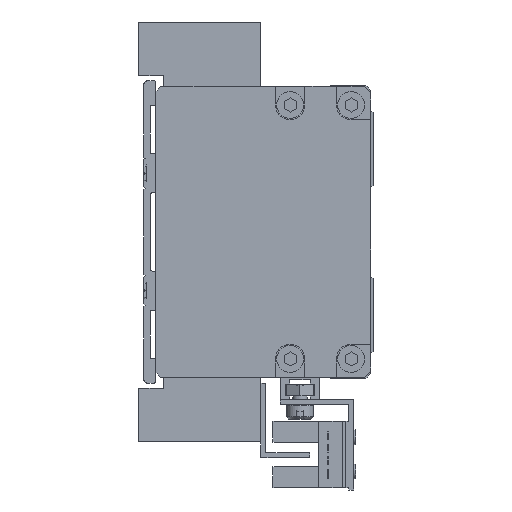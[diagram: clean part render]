
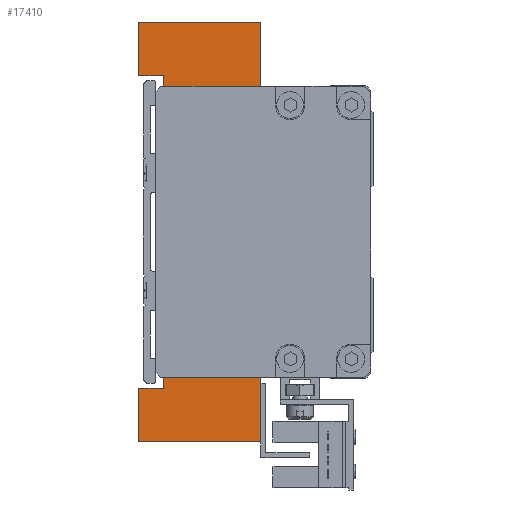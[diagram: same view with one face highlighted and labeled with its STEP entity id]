
A CAD part, left-side view. The second image highlights one B-rep face of the part: STEP entity #17410.
In plain terms, the highlighted planar face has unit normal (-1, 0, 0).
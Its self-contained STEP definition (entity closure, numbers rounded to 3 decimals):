
#139 = ORIENTED_EDGE ( 'NONE', *, *, #30024, .T. ) ;
#1219 = ORIENTED_EDGE ( 'NONE', *, *, #13622, .F. ) ;
#1305 = DIRECTION ( 'NONE',  ( 0., 0., -1. ) ) ;
#1363 = EDGE_CURVE ( 'NONE', #2935, #18385, #38283, .T. ) ;
#1371 = VECTOR ( 'NONE', #9172, 1000. ) ;
#1656 = AXIS2_PLACEMENT_3D ( 'NONE', #16267, #37832, #22563 ) ;
#2106 = ORIENTED_EDGE ( 'NONE', *, *, #21478, .F. ) ;
#2311 = DIRECTION ( 'NONE',  ( 0., 1., 0. ) ) ;
#2427 = ORIENTED_EDGE ( 'NONE', *, *, #12538, .F. ) ;
#2829 = LINE ( 'NONE', #6293, #1371 ) ;
#2845 = VECTOR ( 'NONE', #6173, 1000. ) ;
#2935 = VERTEX_POINT ( 'NONE', #13249 ) ;
#3105 = EDGE_CURVE ( 'NONE', #39103, #24300, #2829, .T. ) ;
#3289 = CARTESIAN_POINT ( 'NONE',  ( -77., 20., 32. ) ) ;
#3555 = CARTESIAN_POINT ( 'NONE',  ( -77., 25., 43. ) ) ;
#3556 = LINE ( 'NONE', #37116, #20034 ) ;
#3831 = CARTESIAN_POINT ( 'NONE',  ( -77., 9., -21. ) ) ;
#4033 = CARTESIAN_POINT ( 'NONE',  ( -77., 10., 21. ) ) ;
#4581 = ORIENTED_EDGE ( 'NONE', *, *, #3105, .T. ) ;
#5161 = ORIENTED_EDGE ( 'NONE', *, *, #1363, .F. ) ;
#5210 = CARTESIAN_POINT ( 'NONE',  ( -77., 0., 43. ) ) ;
#5610 = LINE ( 'NONE', #28814, #23982 ) ;
#6173 = DIRECTION ( 'NONE',  ( 0., -1., 0. ) ) ;
#6293 = CARTESIAN_POINT ( 'NONE',  ( -77., 9., -21. ) ) ;
#6824 = CARTESIAN_POINT ( 'NONE',  ( -77., 5., -28. ) ) ;
#6901 = PLANE ( 'NONE',  #1656 ) ;
#7254 = LINE ( 'NONE', #30957, #28010 ) ;
#7720 = VERTEX_POINT ( 'NONE', #13611 ) ;
#8215 = LINE ( 'NONE', #31137, #2845 ) ;
#8240 = LINE ( 'NONE', #38215, #14538 ) ;
#8681 = EDGE_CURVE ( 'NONE', #20263, #9856, #18268, .T. ) ;
#8875 = EDGE_CURVE ( 'NONE', #22261, #22855, #10511, .T. ) ;
#9172 = DIRECTION ( 'NONE',  ( 0., 1., 0. ) ) ;
#9323 = LINE ( 'NONE', #4033, #30564 ) ;
#9546 = VECTOR ( 'NONE', #19537, 1000. ) ;
#9856 = VERTEX_POINT ( 'NONE', #29555 ) ;
#9993 = EDGE_LOOP ( 'NONE', ( #139, #17011, #28045, #21552, #28283, #33442, #24125, #31848, #35580, #2106, #2427, #22714, #22071, #12476, #5161, #36922, #4581, #1219 ) ) ;
#10511 = LINE ( 'NONE', #35360, #26939 ) ;
#10913 = CARTESIAN_POINT ( 'NONE',  ( -77., 25., -32. ) ) ;
#11287 = VECTOR ( 'NONE', #34366, 1000. ) ;
#11447 = LINE ( 'NONE', #3555, #18668 ) ;
#11855 = CARTESIAN_POINT ( 'NONE',  ( -77., 0., 28. ) ) ;
#12118 = CARTESIAN_POINT ( 'NONE',  ( -77., 5., -21. ) ) ;
#12476 = ORIENTED_EDGE ( 'NONE', *, *, #34601, .F. ) ;
#12538 = EDGE_CURVE ( 'NONE', #23834, #17009, #3556, .T. ) ;
#12637 = DIRECTION ( 'NONE',  ( 0., 0., 1. ) ) ;
#12759 = LINE ( 'NONE', #16190, #17583 ) ;
#12837 = EDGE_CURVE ( 'NONE', #13520, #22261, #26299, .T. ) ;
#13249 = CARTESIAN_POINT ( 'NONE',  ( -77., 5., -21. ) ) ;
#13314 = EDGE_CURVE ( 'NONE', #9856, #23834, #13723, .T. ) ;
#13520 = VERTEX_POINT ( 'NONE', #19470 ) ;
#13611 = CARTESIAN_POINT ( 'NONE',  ( -77., 25., 32. ) ) ;
#13622 = EDGE_CURVE ( 'NONE', #21078, #24300, #9323, .T. ) ;
#13723 = LINE ( 'NONE', #26945, #22378 ) ;
#14404 = VECTOR ( 'NONE', #18778, 1000. ) ;
#14538 = VECTOR ( 'NONE', #29009, 1000. ) ;
#15051 = VERTEX_POINT ( 'NONE', #27775 ) ;
#15148 = CARTESIAN_POINT ( 'NONE',  ( -77., 20., 32. ) ) ;
#15216 = DIRECTION ( 'NONE',  ( 0., 0., -1. ) ) ;
#15575 = CARTESIAN_POINT ( 'NONE',  ( -77., 5., 28. ) ) ;
#16118 = LINE ( 'NONE', #15575, #39342 ) ;
#16190 = CARTESIAN_POINT ( 'NONE',  ( -77., 5., -28. ) ) ;
#16267 = CARTESIAN_POINT ( 'NONE',  ( -77., 10., 0. ) ) ;
#16977 = CARTESIAN_POINT ( 'NONE',  ( -77., 5., 21. ) ) ;
#17009 = VERTEX_POINT ( 'NONE', #10913 ) ;
#17011 = ORIENTED_EDGE ( 'NONE', *, *, #25992, .T. ) ;
#17410 = ADVANCED_FACE ( 'NONE', ( #20129 ), #6901, .F. ) ;
#17583 = VECTOR ( 'NONE', #22090, 1000. ) ;
#17632 = VECTOR ( 'NONE', #23791, 1000. ) ;
#18268 = LINE ( 'NONE', #24702, #14404 ) ;
#18385 = VERTEX_POINT ( 'NONE', #6824 ) ;
#18668 = VECTOR ( 'NONE', #37496, 1000. ) ;
#18778 = DIRECTION ( 'NONE',  ( 0., 0., -1. ) ) ;
#19470 = CARTESIAN_POINT ( 'NONE',  ( -77., 0., 43. ) ) ;
#19537 = DIRECTION ( 'NONE',  ( 0., -1., 0. ) ) ;
#19994 = VECTOR ( 'NONE', #27235, 1000. ) ;
#20034 = VECTOR ( 'NONE', #34117, 1000. ) ;
#20129 = FACE_OUTER_BOUND ( 'NONE', #9993, .T. ) ;
#20263 = VERTEX_POINT ( 'NONE', #24917 ) ;
#21078 = VERTEX_POINT ( 'NONE', #30134 ) ;
#21478 = EDGE_CURVE ( 'NONE', #17009, #15051, #8240, .T. ) ;
#21552 = ORIENTED_EDGE ( 'NONE', *, *, #8875, .F. ) ;
#21842 = LINE ( 'NONE', #3289, #11287 ) ;
#22071 = ORIENTED_EDGE ( 'NONE', *, *, #8681, .F. ) ;
#22090 = DIRECTION ( 'NONE',  ( 0., -1., 0. ) ) ;
#22261 = VERTEX_POINT ( 'NONE', #11855 ) ;
#22378 = VECTOR ( 'NONE', #2311, 1000. ) ;
#22563 = DIRECTION ( 'NONE',  ( 0., 0., -1. ) ) ;
#22714 = ORIENTED_EDGE ( 'NONE', *, *, #13314, .F. ) ;
#22855 = VERTEX_POINT ( 'NONE', #26336 ) ;
#23791 = DIRECTION ( 'NONE',  ( 0., 0., 1. ) ) ;
#23834 = VERTEX_POINT ( 'NONE', #29189 ) ;
#23982 = VECTOR ( 'NONE', #32182, 1000. ) ;
#24125 = ORIENTED_EDGE ( 'NONE', *, *, #39859, .F. ) ;
#24300 = VERTEX_POINT ( 'NONE', #31051 ) ;
#24635 = VERTEX_POINT ( 'NONE', #33056 ) ;
#24702 = CARTESIAN_POINT ( 'NONE',  ( -77., 0., -28. ) ) ;
#24917 = CARTESIAN_POINT ( 'NONE',  ( -77., 0., -28. ) ) ;
#25774 = CARTESIAN_POINT ( 'NONE',  ( -77., 25., 43. ) ) ;
#25982 = LINE ( 'NONE', #34779, #9546 ) ;
#25992 = EDGE_CURVE ( 'NONE', #24635, #28740, #5610, .T. ) ;
#26249 = VECTOR ( 'NONE', #15216, 1000. ) ;
#26299 = LINE ( 'NONE', #5210, #19994 ) ;
#26336 = CARTESIAN_POINT ( 'NONE',  ( -77., 5., 28. ) ) ;
#26939 = VECTOR ( 'NONE', #38480, 1000. ) ;
#26945 = CARTESIAN_POINT ( 'NONE',  ( -77., 0., -43. ) ) ;
#27235 = DIRECTION ( 'NONE',  ( 0., 0., -1. ) ) ;
#27775 = CARTESIAN_POINT ( 'NONE',  ( -77., 20., -32. ) ) ;
#27982 = EDGE_CURVE ( 'NONE', #22855, #28740, #16118, .T. ) ;
#28010 = VECTOR ( 'NONE', #12637, 1000. ) ;
#28045 = ORIENTED_EDGE ( 'NONE', *, *, #27982, .F. ) ;
#28283 = ORIENTED_EDGE ( 'NONE', *, *, #12837, .F. ) ;
#28555 = EDGE_CURVE ( 'NONE', #38811, #7720, #21842, .T. ) ;
#28740 = VERTEX_POINT ( 'NONE', #16977 ) ;
#28814 = CARTESIAN_POINT ( 'NONE',  ( -77., 9., 21. ) ) ;
#29009 = DIRECTION ( 'NONE',  ( 0., -1., 0. ) ) ;
#29189 = CARTESIAN_POINT ( 'NONE',  ( -77., 25., -43. ) ) ;
#29555 = CARTESIAN_POINT ( 'NONE',  ( -77., 0., -43. ) ) ;
#30024 = EDGE_CURVE ( 'NONE', #21078, #24635, #8215, .T. ) ;
#30134 = CARTESIAN_POINT ( 'NONE',  ( -77., 10., 21. ) ) ;
#30404 = CARTESIAN_POINT ( 'NONE',  ( -77., 25., 32. ) ) ;
#30564 = VECTOR ( 'NONE', #1305, 1000. ) ;
#30957 = CARTESIAN_POINT ( 'NONE',  ( -77., 20., -32. ) ) ;
#31051 = CARTESIAN_POINT ( 'NONE',  ( -77., 10., -21. ) ) ;
#31137 = CARTESIAN_POINT ( 'NONE',  ( -77., 10., 21. ) ) ;
#31848 = ORIENTED_EDGE ( 'NONE', *, *, #28555, .F. ) ;
#32182 = DIRECTION ( 'NONE',  ( 0., -1., 0. ) ) ;
#32441 = EDGE_CURVE ( 'NONE', #39103, #2935, #25982, .T. ) ;
#33056 = CARTESIAN_POINT ( 'NONE',  ( -77., 9., 21. ) ) ;
#33442 = ORIENTED_EDGE ( 'NONE', *, *, #38932, .F. ) ;
#34011 = LINE ( 'NONE', #30404, #17632 ) ;
#34117 = DIRECTION ( 'NONE',  ( 0., 0., 1. ) ) ;
#34366 = DIRECTION ( 'NONE',  ( 0., 1., 0. ) ) ;
#34601 = EDGE_CURVE ( 'NONE', #18385, #20263, #12759, .T. ) ;
#34779 = CARTESIAN_POINT ( 'NONE',  ( -77., 9., -21. ) ) ;
#35360 = CARTESIAN_POINT ( 'NONE',  ( -77., 0., 28. ) ) ;
#35580 = ORIENTED_EDGE ( 'NONE', *, *, #36470, .F. ) ;
#36470 = EDGE_CURVE ( 'NONE', #15051, #38811, #7254, .T. ) ;
#36922 = ORIENTED_EDGE ( 'NONE', *, *, #32441, .F. ) ;
#37116 = CARTESIAN_POINT ( 'NONE',  ( -77., 25., -43. ) ) ;
#37267 = DIRECTION ( 'NONE',  ( 0., 0., -1. ) ) ;
#37496 = DIRECTION ( 'NONE',  ( 0., -1., 0. ) ) ;
#37832 = DIRECTION ( 'NONE',  ( 1., 0., 0. ) ) ;
#38215 = CARTESIAN_POINT ( 'NONE',  ( -77., 25., -32. ) ) ;
#38227 = VERTEX_POINT ( 'NONE', #25774 ) ;
#38283 = LINE ( 'NONE', #12118, #26249 ) ;
#38480 = DIRECTION ( 'NONE',  ( 0., 1., 0. ) ) ;
#38811 = VERTEX_POINT ( 'NONE', #15148 ) ;
#38932 = EDGE_CURVE ( 'NONE', #38227, #13520, #11447, .T. ) ;
#39103 = VERTEX_POINT ( 'NONE', #3831 ) ;
#39342 = VECTOR ( 'NONE', #37267, 1000. ) ;
#39859 = EDGE_CURVE ( 'NONE', #7720, #38227, #34011, .T. ) ;
